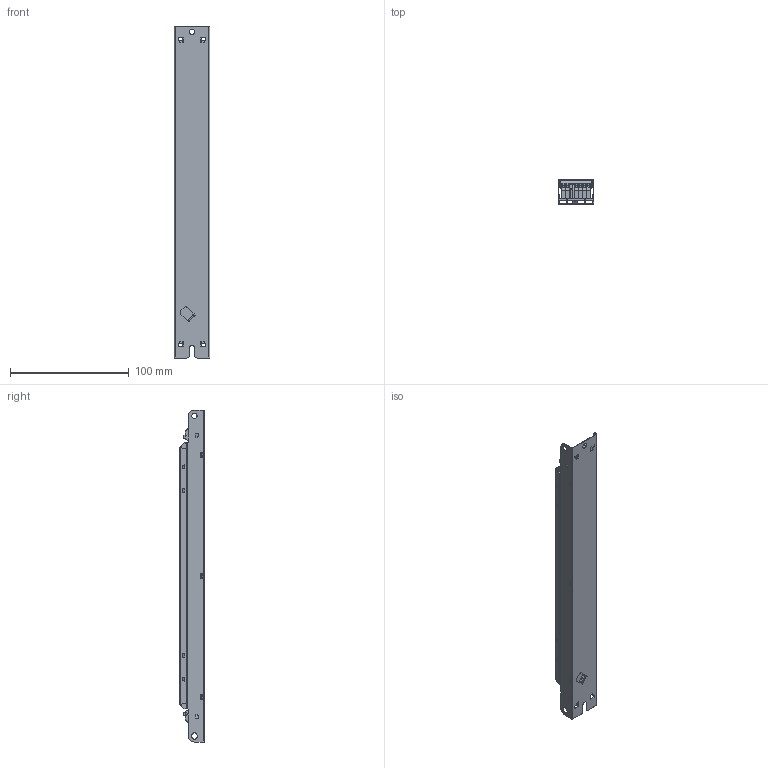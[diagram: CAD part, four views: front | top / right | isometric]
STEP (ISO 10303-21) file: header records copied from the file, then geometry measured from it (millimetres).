
FILE_DESCRIPTION (( 'STEP AP203' ), '1' );
FILE_NAME ('LL1x50-E-CC.STEP', '2014-10-14T06:28:55', ( '' ), ( '' ), 'SwSTEP 2.0', 'SolidWorks 2014', '' );
FILE_SCHEMA (( 'CONFIG_CONTROL_DESIGN' ));
Length unit declared in the file: millimetre
Products named in the file (7): piirilevy_28x256; liitin 1x2; liitin 1x4; pcb; 130763c; LL1x50-E-CC; 130740e
Assembly tree (7 placements, depth 3):
  LL1x50-E-CC
    130740e
    pcb
      piirilevy_28x256
      liitin 1x2
      liitin 1x4  x2
    130763c
Bounding box: 30 x 20.8 x 280 mm (x, y, z)
Volume: 25133.5 mm3; surface area: 75294.4 mm2
Topology: 3 solids, 15 shells, 1421 faces, 3613 edges, 2217 vertices
Faces by surface type: plane 606, cylinder 601, bspline 214
Entity records: 46186 total; most frequent: CARTESIAN_POINT 18972, ORIENTED_EDGE 5958, DIRECTION 4746, EDGE_CURVE 3030, VECTOR 1866, LINE 1866, VERTEX_POINT 1854, AXIS2_PLACEMENT_3D 1440
